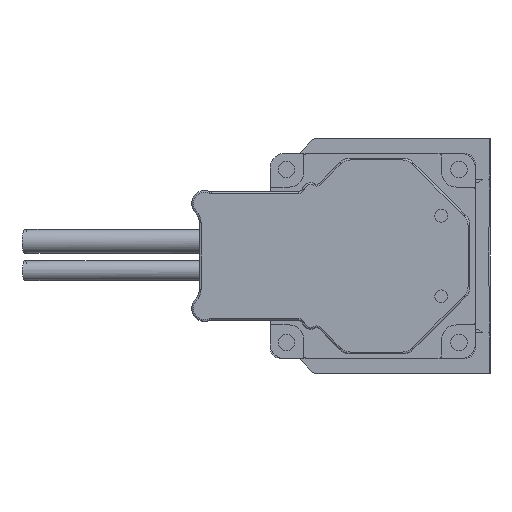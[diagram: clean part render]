
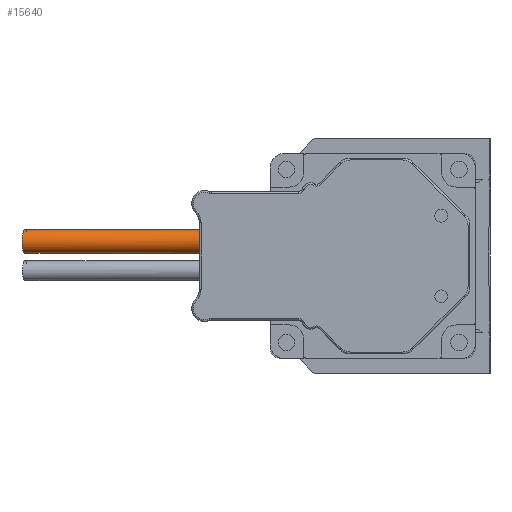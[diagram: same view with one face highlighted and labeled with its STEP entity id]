
A CAD part, left-side view. The second image highlights one B-rep face of the part: STEP entity #15640.
In plain terms, the highlighted cylindrical face has radius 3.25 mm (diameter 6.5 mm), a full revolution.
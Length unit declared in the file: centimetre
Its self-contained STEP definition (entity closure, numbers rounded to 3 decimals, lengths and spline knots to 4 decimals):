
#55=ELLIPSE('',#25924,0.335,0.325);
#1685=CIRCLE('',#25929,0.325);
#3015=VERTEX_POINT('',#24063);
#3018=VERTEX_POINT('',#24071);
#8194=EDGE_CURVE('',#3015,#3015,#55,.T.);
#8197=EDGE_CURVE('',#3018,#3018,#1685,.T.);
#12238=ORIENTED_EDGE('',*,*,#8194,.T.);
#12239=ORIENTED_EDGE('',*,*,#8197,.F.);
#13769=EDGE_LOOP('',(#12238));
#13770=EDGE_LOOP('',(#12239));
#14764=FACE_BOUND('',#13769,.T.);
#14765=FACE_BOUND('',#13770,.T.);
#15640=ADVANCED_FACE('',(#14764,#14765),#15941,.T.);
#15941=CYLINDRICAL_SURFACE('',#25928,0.325);
#19303=DIRECTION('',(0.,-0.97,-0.243));
#19304=DIRECTION('',(0.,0.081,-0.325));
#19311=DIRECTION('',(0.,1.,0.));
#19312=DIRECTION('',(0.325,0.,0.));
#19313=DIRECTION('',(0.,-1.,0.));
#19314=DIRECTION('',(0.325,0.,0.));
#24062=CARTESIAN_POINT('',(-0.4,9.4871,-4.5));
#24063=CARTESIAN_POINT('',(-0.4,9.4059,-4.175));
#24069=CARTESIAN_POINT('',(-0.4,4.7322,-4.5));
#24070=CARTESIAN_POINT('',(-0.4,4.7322,-4.5));
#24071=CARTESIAN_POINT('',(-0.075,4.7322,-4.5));
#25924=AXIS2_PLACEMENT_3D('',#24062,#19303,#19304);
#25928=AXIS2_PLACEMENT_3D('',#24069,#19311,#19312);
#25929=AXIS2_PLACEMENT_3D('',#24070,#19313,#19314);
